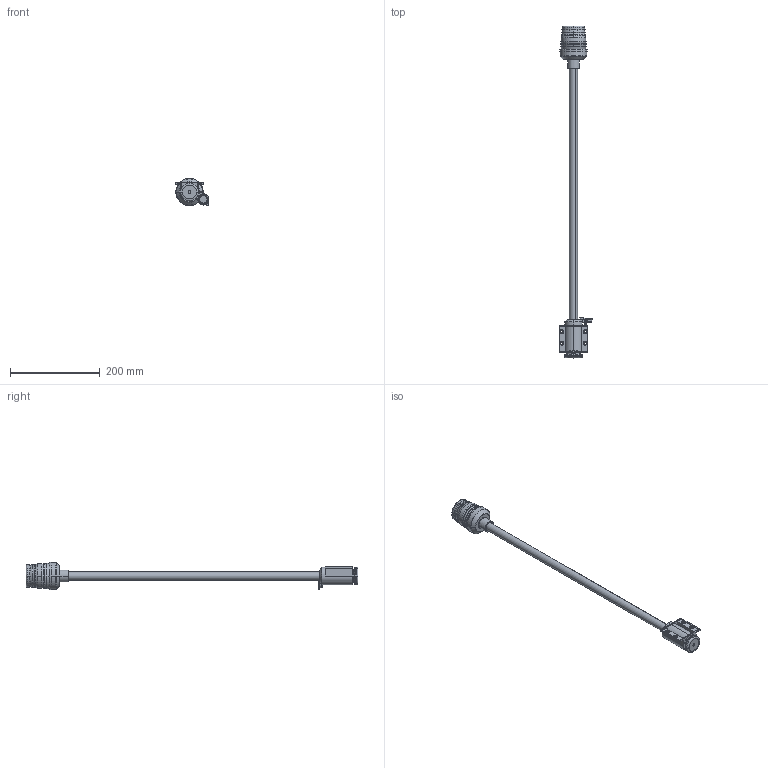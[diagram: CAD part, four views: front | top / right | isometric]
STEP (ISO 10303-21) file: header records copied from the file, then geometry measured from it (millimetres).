
FILE_DESCRIPTION (( 'STEP AP203' ), '1' );
FILE_NAME ('11.110.00.STEP', '2022-01-12T13:42:32', ( '' ), ( '' ), 'SwSTEP 2.0', 'SolidWorks 2014', '' );
FILE_SCHEMA (( 'CONFIG_CONTROL_DESIGN' ));
Length unit declared in the file: millimetre
Products named in the file (4): Parte10^11.110.00; OTUIN-0001_1; 11.110.00; 11.110.00_base
Assembly tree (3 placements, depth 2):
  11.110.00
    OTUIN-0001_1
    Parte10^11.110.00
    11.110.00_base
Bounding box: 75.65 x 740.25 x 60.7 mm (x, y, z)
Volume: 265156.3 mm3; surface area: 122522.5 mm2
Topology: 3 solids, 4 shells, 311 faces, 723 edges, 438 vertices
Faces by surface type: cylinder 103, plane 98, torus 44, bspline 37, cone 29
Entity records: 9867 total; most frequent: CARTESIAN_POINT 2375, DIRECTION 1578, ORIENTED_EDGE 1446, EDGE_CURVE 723, AXIS2_PLACEMENT_3D 637, VERTEX_POINT 438, CIRCLE 357, EDGE_LOOP 341
